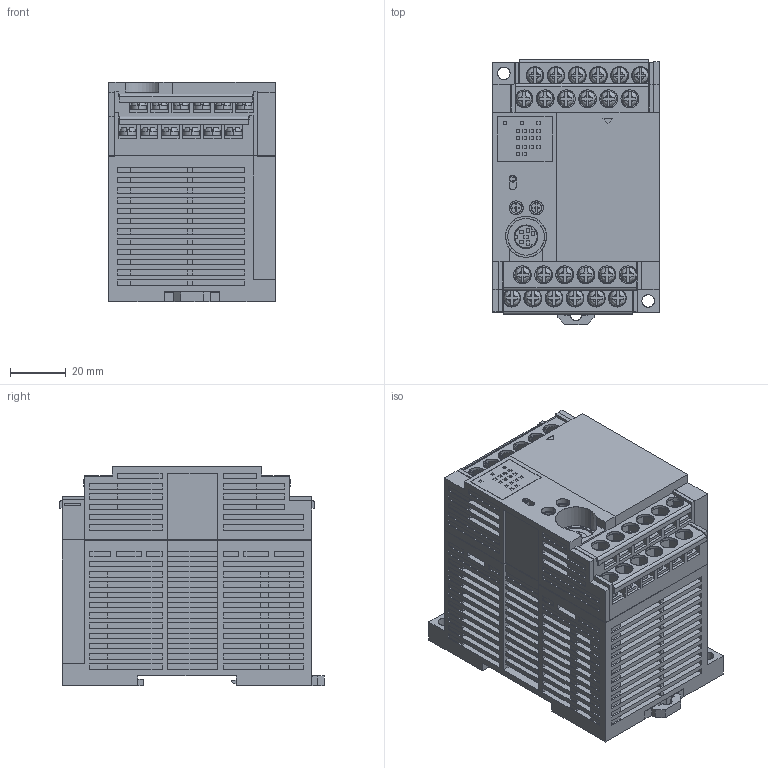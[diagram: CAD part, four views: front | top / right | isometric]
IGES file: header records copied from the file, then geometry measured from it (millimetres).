
Global section: preprocessor: SolidWorks 2008; organization: PanasonicElectricWorks; date: 090828.104552; units: millimetre
Bounding box: 60 x 95.4 x 79 mm (x, y, z)
Surface area: 65976.8 mm2 (no closed solid volume)
Topology: 0 solids, 0 shells, 2193 faces, 16500 edges, 16490 vertices
Faces by surface type: bspline 2032, revolution 161
